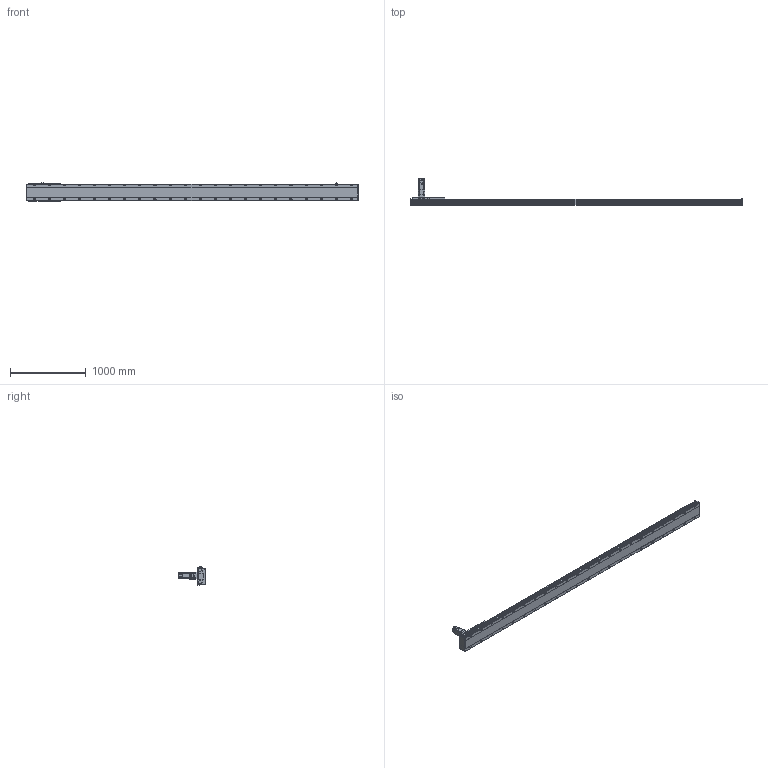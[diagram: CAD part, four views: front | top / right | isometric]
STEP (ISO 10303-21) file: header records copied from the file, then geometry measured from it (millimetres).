
FILE_DESCRIPTION(/* description */ ('STEP AP214'),/* implementation_level */ '2;1');
FILE_NAME(/* name */ 'SHS22A-L13-S3900-BC-T75-C1-N(0)',/* time_stamp */ '2022-06-15T02:28:30+02:00',/* author */ ('License CC BY-ND 4.0'),/* organization */ ('CADENAS'),/* preprocessor_version */ 'ST-DEVELOPER v18.102',/* originating_system */ 'PARTsolutions',/* authorisation */ ' ');
FILE_SCHEMA (('AUTOMOTIVE_DESIGN {1 0 10303 214 3 1 1}'));
Length unit declared in the file: millimetre
Products named in the file (7): SHS22A-L13-S3900-BC-T75-C1-N(0); PSC140-sensor; SHS22A-S3900_body2; T75-p1; SHS22A-S3900_body3; SHS22A-S3900_slider; SHS22A-L13-S3900-BC-T75-C1(0)_body
Assembly tree (13 placements, depth 2):
  SHS22A-L13-S3900-BC-T75-C1-N(0)
    PSC140-sensor  x3
    SHS22A-S3900_body2  x6
    T75-p1
    SHS22A-S3900_body3
    SHS22A-S3900_slider
    SHS22A-L13-S3900-BC-T75-C1(0)_body
Bounding box: 4394 x 350.8 x 238.4 mm (x, y, z)
Volume: 47024837.8 mm3; surface area: 4806135.2 mm2
Topology: 13 solids, 13 shells, 1965 faces, 5031 edges, 3292 vertices
Faces by surface type: plane 1368, cylinder 479, cone 109, torus 9
Full cylindrical faces by diameter (mm): 2.8 x3, 4.2 x2, 4.6 x3, 4.917 x4, 5 x4, 5.6 x24, 6 x31, 6.6 x24, 6.647 x8, 6.8 x9, 7.75 x6, 8 x3, 8.376 x44, 8.5 x44, 10 x4, 11 x4, 12 x24, 14 x44, 22 x1, 24.1 x1, 28 x1, 28.2 x1, 28.8 x1, 48.542 x1, 68 x1, 70 x1, 78 x1, 80 x2
Entity records: 33466 total; most frequent: CARTESIAN_POINT 6065, DIRECTION 5675, ORIENTED_EDGE 5052, EDGE_CURVE 2526, AXIS2_PLACEMENT_3D 2044, VERTEX_POINT 1838, FACE_BOUND 1812, EDGE_LOOP 1811
